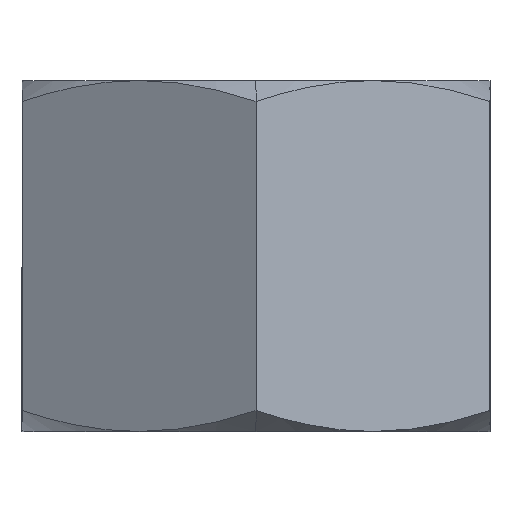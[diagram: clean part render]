
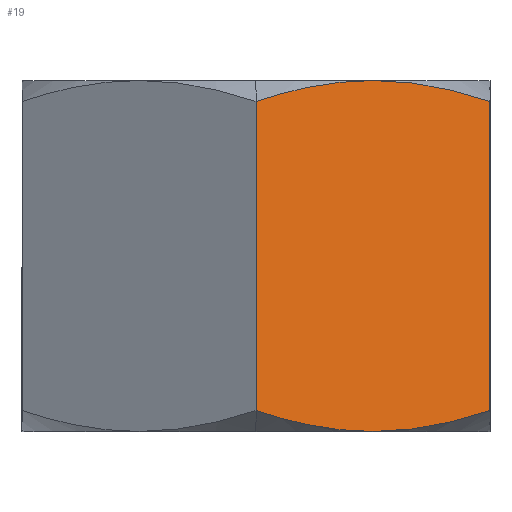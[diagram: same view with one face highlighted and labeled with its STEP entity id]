
A CAD part, left-side view. The second image highlights one B-rep face of the part: STEP entity #19.
In plain terms, the highlighted planar face has unit normal (-0.866, -0.5, 0).
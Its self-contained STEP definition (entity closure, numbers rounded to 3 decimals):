
#6 = VERTEX_POINT ( 'NONE', #441 ) ;
#19 = ADVANCED_FACE ( 'NONE', ( #798 ), #245, .T. ) ;
#21 = CARTESIAN_POINT ( 'NONE',  ( -4.619, 0., 2.643 ) ) ;
#30 = CARTESIAN_POINT ( 'NONE',  ( -4.619, 0., -3. ) ) ;
#39 = CARTESIAN_POINT ( 'NONE',  ( -3.268, -2.339, 3. ) ) ;
#45 = LINE ( 'NONE', #854, #551 ) ;
#60 = CARTESIAN_POINT ( 'NONE',  ( -4.619, 0., 2.643 ) ) ;
#96 = ORIENTED_EDGE ( 'NONE', *, *, #633, .T. ) ;
#102 = CARTESIAN_POINT ( 'NONE',  ( -2.498, -3.674, 2.752 ) ) ;
#109 = VECTOR ( 'NONE', #799, 1000. ) ;
#152 = ORIENTED_EDGE ( 'NONE', *, *, #682, .F. ) ;
#168 = VERTEX_POINT ( 'NONE', #531 ) ;
#174 = DIRECTION ( 'NONE',  ( 0., 0., 1. ) ) ;
#232 = CARTESIAN_POINT ( 'NONE',  ( -3.072, -2.678, -2.966 ) ) ;
#239 = CARTESIAN_POINT ( 'NONE',  ( -2.309, -4., -2.643 ) ) ;
#245 = PLANE ( 'NONE',  #361 ) ;
#258 = CARTESIAN_POINT ( 'NONE',  ( -4.241, -0.654, -2.861 ) ) ;
#268 = CARTESIAN_POINT ( 'NONE',  ( -3.464, -2., 3. ) ) ;
#271 = CARTESIAN_POINT ( 'NONE',  ( -3.464, -2., -3. ) ) ;
#283 = ORIENTED_EDGE ( 'NONE', *, *, #547, .T. ) ;
#299 = B_SPLINE_CURVE_WITH_KNOTS ( 'NONE', 3,
 ( #642, #370, #232, #431, #792, #239 ),
 .UNSPECIFIED., .F., .F.,
 ( 4, 2, 4 ),
 ( 0.002, 0.004, 0.005 ),
 .UNSPECIFIED. ) ;
#300 = DIRECTION ( 'NONE',  ( -0.866, -0.5, 0. ) ) ;
#316 = B_SPLINE_CURVE_WITH_KNOTS ( 'NONE', 3,
 ( #60, #334, #882, #268 ),
 .UNSPECIFIED., .F., .F.,
 ( 4, 4 ),
 ( 0., 0.002 ),
 .UNSPECIFIED. ) ;
#324 = CARTESIAN_POINT ( 'NONE',  ( -2.309, -4., 2.643 ) ) ;
#334 = CARTESIAN_POINT ( 'NONE',  ( -4.241, -0.654, 2.861 ) ) ;
#339 = CARTESIAN_POINT ( 'NONE',  ( -4.619, 0., -2.643 ) ) ;
#361 = AXIS2_PLACEMENT_3D ( 'NONE', #30, #300, #724 ) ;
#370 = CARTESIAN_POINT ( 'NONE',  ( -3.268, -2.339, -3. ) ) ;
#380 = EDGE_CURVE ( 'NONE', #424, #168, #299, .T. ) ;
#424 = VERTEX_POINT ( 'NONE', #869 ) ;
#428 = ORIENTED_EDGE ( 'NONE', *, *, #469, .F. ) ;
#431 = CARTESIAN_POINT ( 'NONE',  ( -2.688, -3.345, -2.841 ) ) ;
#433 = ORIENTED_EDGE ( 'NONE', *, *, #380, .T. ) ;
#441 = CARTESIAN_POINT ( 'NONE',  ( -4.619, 0., -2.643 ) ) ;
#448 = CARTESIAN_POINT ( 'NONE',  ( -3.072, -2.678, 2.966 ) ) ;
#456 = CARTESIAN_POINT ( 'NONE',  ( -3.464, -2., 3. ) ) ;
#464 = B_SPLINE_CURVE_WITH_KNOTS ( 'NONE', 3,
 ( #339, #258, #546, #271 ),
 .UNSPECIFIED., .F., .F.,
 ( 4, 4 ),
 ( 0., 0.002 ),
 .UNSPECIFIED. ) ;
#469 = EDGE_CURVE ( 'NONE', #837, #719, #763, .T. ) ;
#513 = CARTESIAN_POINT ( 'NONE',  ( -2.309, -4., -3. ) ) ;
#525 = LINE ( 'NONE', #513, #109 ) ;
#531 = CARTESIAN_POINT ( 'NONE',  ( -2.309, -4., -2.643 ) ) ;
#546 = CARTESIAN_POINT ( 'NONE',  ( -3.858, -1.319, -3. ) ) ;
#547 = EDGE_CURVE ( 'NONE', #168, #719, #525, .T. ) ;
#551 = VECTOR ( 'NONE', #174, 1000. ) ;
#621 = ORIENTED_EDGE ( 'NONE', *, *, #834, .F. ) ;
#633 = EDGE_CURVE ( 'NONE', #6, #424, #464, .T. ) ;
#642 = CARTESIAN_POINT ( 'NONE',  ( -3.464, -2., -3. ) ) ;
#682 = EDGE_CURVE ( 'NONE', #693, #837, #316, .T. ) ;
#693 = VERTEX_POINT ( 'NONE', #21 ) ;
#711 = CARTESIAN_POINT ( 'NONE',  ( -2.309, -4., 2.643 ) ) ;
#719 = VERTEX_POINT ( 'NONE', #711 ) ;
#724 = DIRECTION ( 'NONE',  ( 0.5, -0.866, 0. ) ) ;
#732 = CARTESIAN_POINT ( 'NONE',  ( -3.464, -2., 3. ) ) ;
#749 = EDGE_LOOP ( 'NONE', ( #152, #621, #96, #433, #283, #428 ) ) ;
#763 = B_SPLINE_CURVE_WITH_KNOTS ( 'NONE', 3,
 ( #456, #39, #448, #859, #102, #324 ),
 .UNSPECIFIED., .F., .F.,
 ( 4, 2, 4 ),
 ( 0.002, 0.004, 0.005 ),
 .UNSPECIFIED. ) ;
#792 = CARTESIAN_POINT ( 'NONE',  ( -2.498, -3.674, -2.752 ) ) ;
#798 = FACE_OUTER_BOUND ( 'NONE', #749, .T. ) ;
#799 = DIRECTION ( 'NONE',  ( 0., 0., 1. ) ) ;
#834 = EDGE_CURVE ( 'NONE', #6, #693, #45, .T. ) ;
#837 = VERTEX_POINT ( 'NONE', #732 ) ;
#854 = CARTESIAN_POINT ( 'NONE',  ( -4.619, 0., -3. ) ) ;
#859 = CARTESIAN_POINT ( 'NONE',  ( -2.688, -3.345, 2.841 ) ) ;
#869 = CARTESIAN_POINT ( 'NONE',  ( -3.464, -2., -3. ) ) ;
#882 = CARTESIAN_POINT ( 'NONE',  ( -3.858, -1.319, 3. ) ) ;
